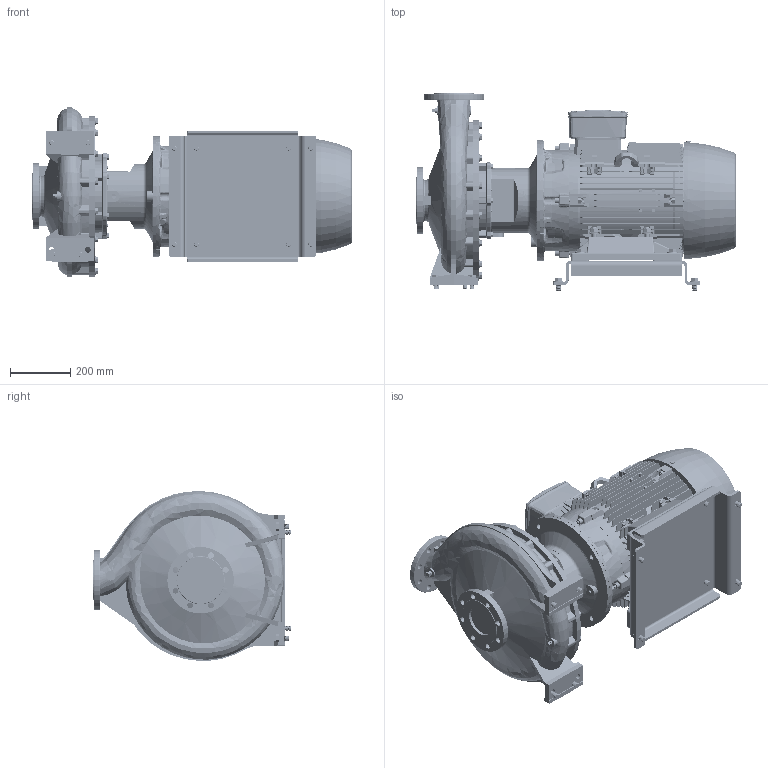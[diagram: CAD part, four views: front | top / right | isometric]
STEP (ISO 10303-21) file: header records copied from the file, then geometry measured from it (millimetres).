
FILE_DESCRIPTION (( 'STEP AP214' ), '1' );
FILE_NAME ('GSD4 80-400_30_(200ML)_W21.STEP', '2026-07-01T06:06:56', ( '' ), ( '' ), 'SwSTEP 2.0', 'SolidWorks 2024', '' );
FILE_SCHEMA (( 'AUTOMOTIVE_DESIGN' ));
Length unit declared in the file: millimetre
Products named in the file (11): Parametric bolt_SFT-A351B; 80-400-200M_L_ﾃﾞﾌｫﾙﾄ; Parametric bolt_SFT-A353B; 200M_L ALIE3_W21T_B35; Parametric bolt and washer_SFT-A359B; Parametric bolt and washer_SFT-A351B; Parametric bolt_SFT-A359B; Parametric Flat Washer_M16; GSD4 80-400_30_(200ML)_W21; CGS11-5273; Parametric bolt and washer_SFT-A353B
Assembly tree (21 placements, depth 3):
  GSD4 80-400_30_(200ML)_W21
    80-400-200M_L_ﾃﾞﾌｫﾙﾄ
    CGS11-5273
    Parametric bolt and washer_SFT-A353B  x4
      Parametric bolt_SFT-A353B
      Parametric Flat Washer_M16
    Parametric bolt and washer_SFT-A351B  x4
      Parametric bolt_SFT-A351B
      Parametric Flat Washer_M16
    Parametric bolt and washer_SFT-A359B  x4
      Parametric bolt_SFT-A359B
      Parametric Flat Washer_M16
    200M_L ALIE3_W21T_B35
Bounding box: 1058.8 x 653 x 562.76 mm (x, y, z)
Volume: 102527718.5 mm3; surface area: 5325800.8 mm2
Topology: 55 solids, 65 shells, 7744 faces, 20034 edges, 12889 vertices
Faces by surface type: plane 4425, cylinder 1478, bspline 930, cone 664, torus 247
Entity records: 297053 total; most frequent: CARTESIAN_POINT 132612, ORIENTED_EDGE 36672, DIRECTION 29756, EDGE_CURVE 18336, VERTEX_POINT 11842, VECTOR 11172, LINE 11172, AXIS2_PLACEMENT_3D 9292
